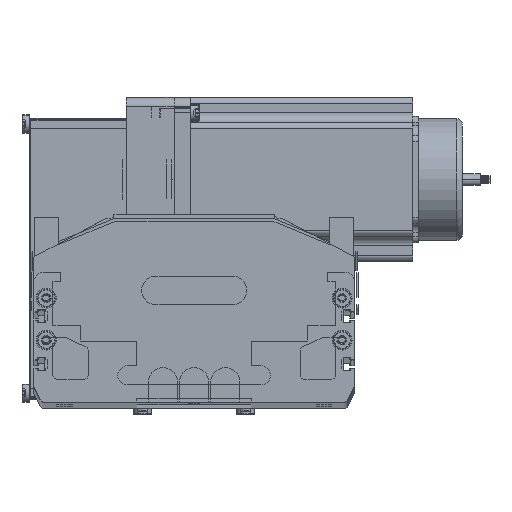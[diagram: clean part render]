
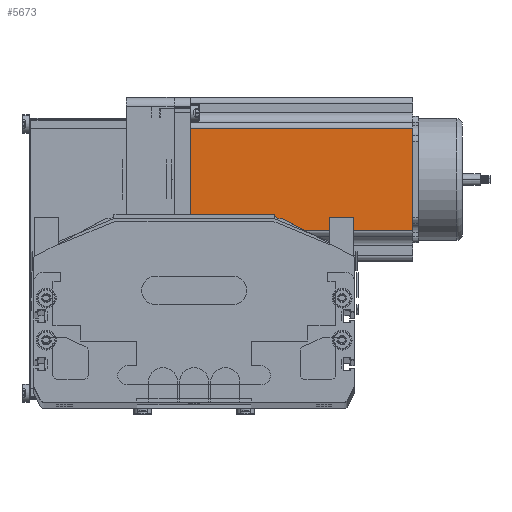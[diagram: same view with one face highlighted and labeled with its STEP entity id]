
A CAD part, top view. The second image highlights one B-rep face of the part: STEP entity #5673.
In plain terms, the highlighted planar face has unit normal (0, 0, 1) as drawn and (0, -1, 0) by its records, which use the part's own axes.
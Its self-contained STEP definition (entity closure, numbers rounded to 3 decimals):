
#3621 = AXIS2_PLACEMENT_3D ( 'NONE', #4099, #3903, #3833 ) ;
#3833 = DIRECTION ( 'NONE',  ( 0., 0., 1. ) ) ;
#3903 = DIRECTION ( 'NONE',  ( 0., 1., 0. ) ) ;
#4046 = FACE_OUTER_BOUND ( 'NONE', #5624, .T. ) ;
#4056 = CARTESIAN_POINT ( 'NONE',  ( 0., 0., 116.5 ) ) ;
#4057 = LINE ( 'NONE', #4056, #4076 ) ;
#4062 = CARTESIAN_POINT ( 'NONE',  ( 16.16, 0., 0. ) ) ;
#4071 = CARTESIAN_POINT ( 'NONE',  ( 16.16, 0., 116.5 ) ) ;
#4073 = DIRECTION ( 'NONE',  ( 1., 0., 0. ) ) ;
#4076 = VECTOR ( 'NONE', #4073, 1000. ) ;
#4099 = CARTESIAN_POINT ( 'NONE',  ( 0., 0., 116.5 ) ) ;
#4106 = PLANE ( 'NONE',  #3621 ) ;
#4115 = CARTESIAN_POINT ( 'NONE',  ( 69.74, 0., 0. ) ) ;
#5414 = EDGE_CURVE ( 'NONE', #5677, #5648, #40927, .T. ) ;
#5415 = ORIENTED_EDGE ( 'NONE', *, *, #5568, .T. ) ;
#5568 = EDGE_CURVE ( 'NONE', #5671, #5677, #43070, .T. ) ;
#5569 = EDGE_CURVE ( 'NONE', #5648, #5622, #43146, .T. ) ;
#5622 = VERTEX_POINT ( 'NONE', #53882 ) ;
#5624 = EDGE_LOOP ( 'NONE', ( #5656, #5666, #5647, #5415 ) ) ;
#5647 = ORIENTED_EDGE ( 'NONE', *, *, #5667, .F. ) ;
#5648 = VERTEX_POINT ( 'NONE', #4115 ) ;
#5656 = ORIENTED_EDGE ( 'NONE', *, *, #5414, .T. ) ;
#5666 = ORIENTED_EDGE ( 'NONE', *, *, #5569, .T. ) ;
#5667 = EDGE_CURVE ( 'NONE', #5671, #5622, #4057, .T. ) ;
#5671 = VERTEX_POINT ( 'NONE', #4071 ) ;
#5673 = ADVANCED_FACE ( 'NONE', ( #4046 ), #4106, .F. ) ;
#5677 = VERTEX_POINT ( 'NONE', #4062 ) ;
#40915 = DIRECTION ( 'NONE',  ( 1., 0., 0. ) ) ;
#40916 = CARTESIAN_POINT ( 'NONE',  ( 0., 0., 0. ) ) ;
#40927 = LINE ( 'NONE', #40916, #41042 ) ;
#41042 = VECTOR ( 'NONE', #40915, 1000. ) ;
#43067 = CARTESIAN_POINT ( 'NONE',  ( 16.16, 0., 116.5 ) ) ;
#43070 = LINE ( 'NONE', #43067, #43358 ) ;
#43146 = LINE ( 'NONE', #43345, #43344 ) ;
#43342 = DIRECTION ( 'NONE',  ( 0., 0., 1. ) ) ;
#43344 = VECTOR ( 'NONE', #43342, 1000. ) ;
#43345 = CARTESIAN_POINT ( 'NONE',  ( 69.74, 0., 116.5 ) ) ;
#43356 = DIRECTION ( 'NONE',  ( 0., 0., -1. ) ) ;
#43358 = VECTOR ( 'NONE', #43356, 1000. ) ;
#53882 = CARTESIAN_POINT ( 'NONE',  ( 69.74, 0., 116.5 ) ) ;
